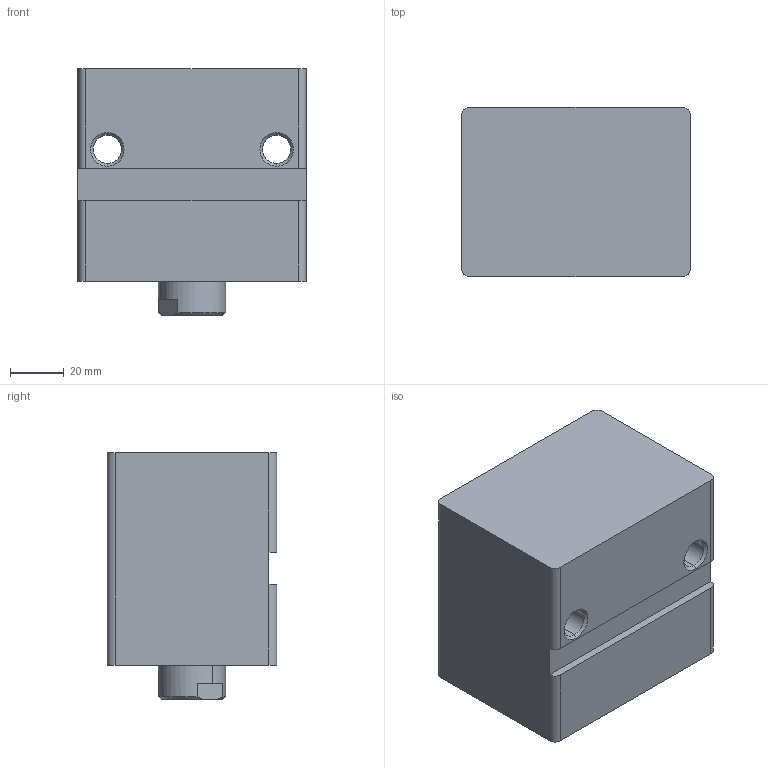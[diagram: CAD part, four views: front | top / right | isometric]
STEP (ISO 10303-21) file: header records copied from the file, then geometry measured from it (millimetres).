
FILE_DESCRIPTION (( 'STEP AP214' ), '1' );
FILE_NAME ('KBZ_03_40_25_25_WEB.STEP', '2020-05-11T08:26:44', ( '' ), ( '' ), 'SwSTEP 2.0', 'SolidWorks 2018', '' );
FILE_SCHEMA (( 'AUTOMOTIVE_DESIGN' ));
Length unit declared in the file: millimetre
Products named in the file (7): KBZ_03_40_25_ON_KAPAK; K05-25X31X4; KBZ_03_40_25_25_WEB; KO-38X3; KBZ_03_40_25_GOVDE_KBZ_03_40_25; KBZ_03_25_MIL; KBZ_03_40_25_烰_KAPAK
Assembly tree (6 placements, depth 3):
  KBZ_03_40_25_25_WEB
    KBZ_03_40_25_GOVDE_KBZ_03_40_25
    KBZ_03_25_MIL
    KBZ_03_40_25_烰_KAPAK
      KBZ_03_40_25_ON_KAPAK
      K05-25X31X4
      KO-38X3
Bounding box: 85 x 63 x 91.7 mm (x, y, z)
Volume: 363016.4 mm3; surface area: 69930.7 mm2
Topology: 5 solids, 5 shells, 332 faces, 788 edges, 496 vertices
Faces by surface type: plane 130, bspline 94, cone 54, cylinder 54
Entity records: 14588 total; most frequent: CARTESIAN_POINT 5651, ORIENTED_EDGE 1576, DIRECTION 1236, EDGE_CURVE 788, VERTEX_POINT 496, LINE 424, VECTOR 424, AXIS2_PLACEMENT_3D 406
